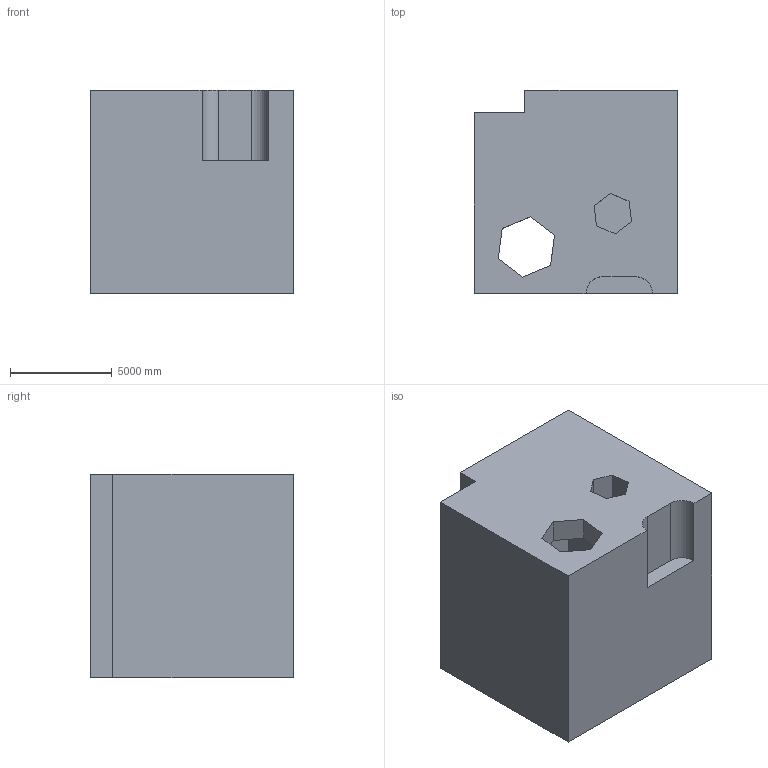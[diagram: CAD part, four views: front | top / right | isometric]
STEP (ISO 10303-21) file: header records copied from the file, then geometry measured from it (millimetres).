
FILE_DESCRIPTION (( 'STEP AP203' ), '1' );
FILE_NAME ('644.STEP', '2022-07-29T12:16:23', ( 'user' ), ( '' ), 'SwSTEP 2.0', 'SolidWorks 2021', '' );
FILE_SCHEMA (( 'CONFIG_CONTROL_DESIGN' ));
Length unit declared in the file: centimetre
Products named in the file (1): 644
Bounding box: 10000 x 10000 x 10000 mm (x, y, z)
Volume: 835710457427.2 mm3; surface area: 793789964.6 mm2
Topology: 1 solids, 1 shells, 43 faces, 120 edges, 80 vertices
Faces by surface type: plane 41, cylinder 2
Entity records: 1443 total; most frequent: CARTESIAN_POINT 244, ORIENTED_EDGE 240, DIRECTION 212, EDGE_CURVE 120, VECTOR 116, LINE 116, VERTEX_POINT 80, EDGE_LOOP 48
